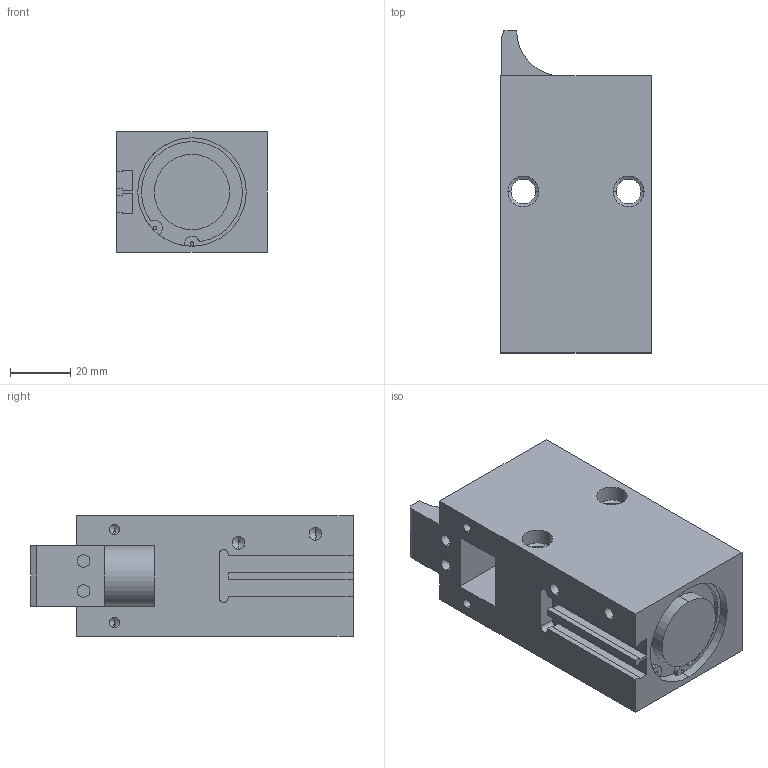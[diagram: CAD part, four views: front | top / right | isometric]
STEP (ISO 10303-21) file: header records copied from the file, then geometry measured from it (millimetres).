
FILE_DESCRIPTION (( 'STEP AP203' ), '1' );
FILE_NAME ('D0400-15-EW-E-G.STEP', '2011-10-12T09:07:56', ( 'test' ), ( '' ), 'SwSTEP 2.0', 'SolidWorks 2010', '' );
FILE_SCHEMA (( 'CONFIG_CONTROL_DESIGN' ));
Length unit declared in the file: millimetre
Products named in the file (1): D0400-15-EW-E-G
Bounding box: 50 x 107 x 40 mm (x, y, z)
Volume: 168926 mm3; surface area: 31236.2 mm2
Topology: 1 solids, 1 shells, 123 faces, 306 edges, 184 vertices
Faces by surface type: cylinder 56, plane 43, cone 24
Entity records: 3619 total; most frequent: DIRECTION 652, CARTESIAN_POINT 598, ORIENTED_EDGE 580, EDGE_CURVE 290, AXIS2_PLACEMENT_3D 238, VERTEX_POINT 184, VECTOR 176, LINE 176
